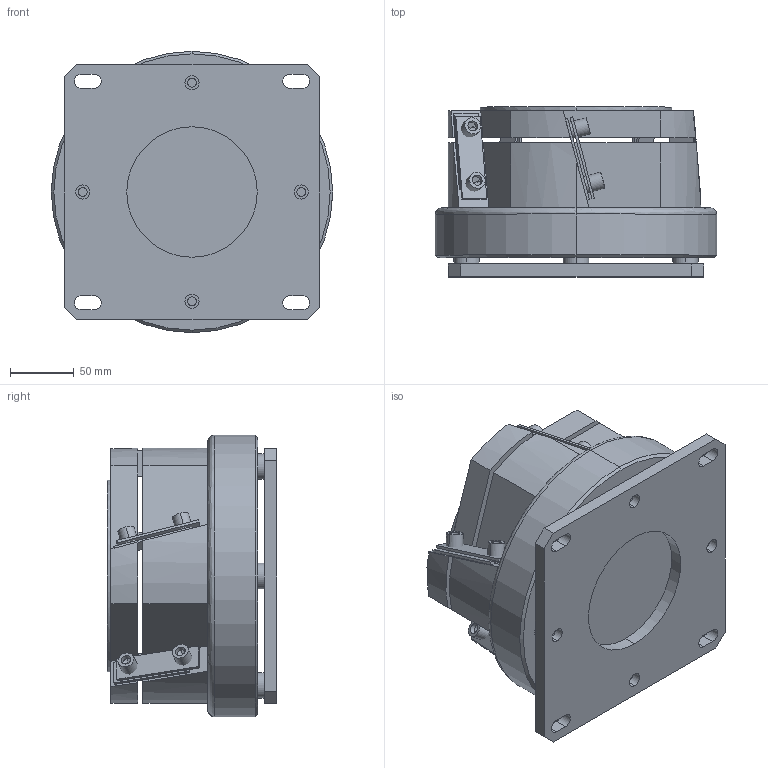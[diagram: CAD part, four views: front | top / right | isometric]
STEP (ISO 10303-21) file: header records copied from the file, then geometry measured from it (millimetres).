
FILE_DESCRIPTION (( 'STEP AP203' ), '1' );
FILE_NAME ('JMG-200 陔蜊.STEP', '2025-07-11T07:56:11', ( '' ), ( '' ), 'SwSTEP 2.0', 'SolidWorks 2022', '' );
FILE_SCHEMA (( 'CONFIG_CONTROL_DESIGN' ));
Length unit declared in the file: millimetre
Products named in the file (1): JMG-200  陔蜊
Bounding box: 220 x 132.8 x 220 mm (x, y, z)
Volume: 3744381 mm3; surface area: 386145.6 mm2
Topology: 32 solids, 32 shells, 286 faces, 624 edges, 395 vertices
Faces by surface type: plane 165, cylinder 95, cone 24, bspline 2
Entity records: 7738 total; most frequent: DIRECTION 1358, CARTESIAN_POINT 1353, ORIENTED_EDGE 1204, EDGE_CURVE 602, AXIS2_PLACEMENT_3D 484, VERTEX_POINT 395, VECTOR 390, LINE 390
